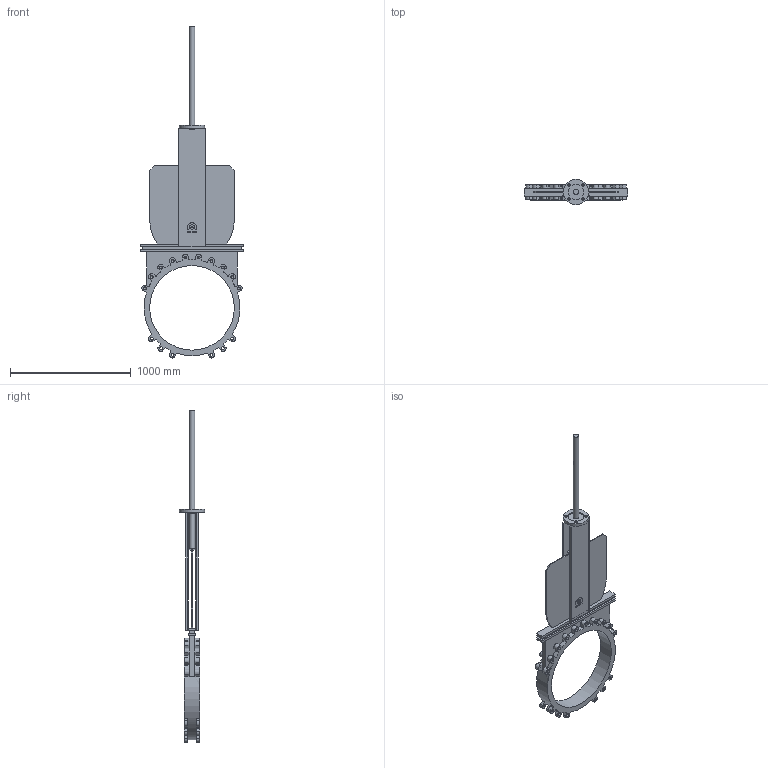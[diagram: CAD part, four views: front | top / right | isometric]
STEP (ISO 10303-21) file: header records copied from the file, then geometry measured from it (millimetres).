
FILE_DESCRIPTION(('STEP AP203'), '1');
FILE_NAME('K51GVA_DN700', '', ('UNSPECIFIED'), ('UNSPECIFIED'), 'ASCON STEP Converter 1.6', 'ASCON Math Kernel', '');
FILE_SCHEMA(('CONFIG_CONTROL_DESIGN'));
Length unit declared in the file: millimetre
Bounding box: 855 x 210 x 2748.4 mm (x, y, z)
Volume: 31956460.6 mm3; surface area: 3703485.6 mm2
Topology: 1 solids, 1 shells, 341 faces, 969 edges, 639 vertices
Faces by surface type: plane 172, cylinder 148, cone 21
Full cylindrical faces by diameter (mm): 22 x4, 23.752 x32, 46 x2, 80 x1, 130 x1, 210 x1, 700 x1, 794 x1
Entity records: 13530 total; most frequent: DIRECTION 1940, CARTESIAN_POINT 1846, ORIENTED_EDGE 1770, EDGE_CURVE 885, AXIS2_PLACEMENT_3D 713, VERTEX_POINT 619, LINE 514, VECTOR 514
